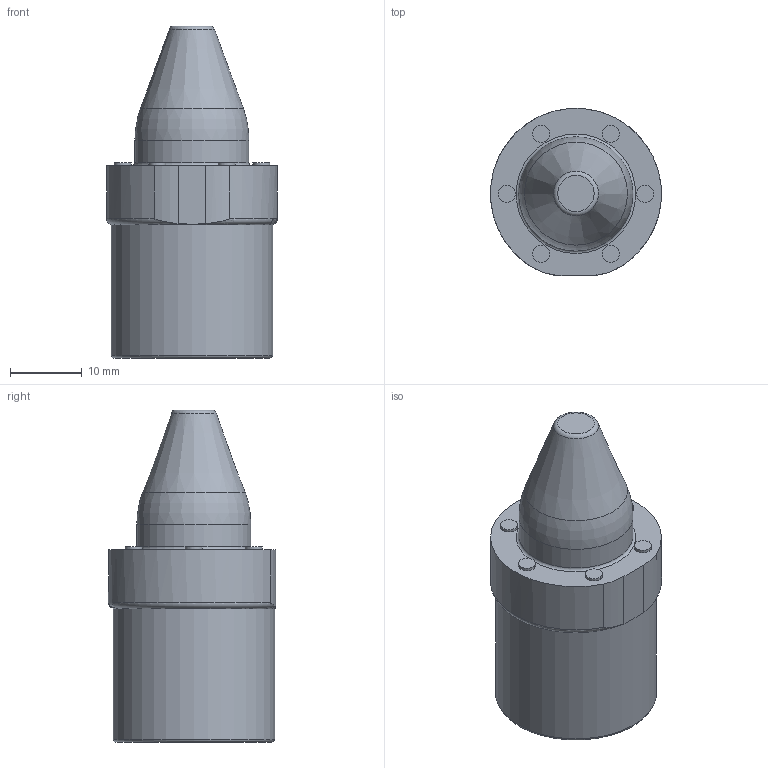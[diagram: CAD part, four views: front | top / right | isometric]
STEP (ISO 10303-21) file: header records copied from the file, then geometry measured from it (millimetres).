
FILE_DESCRIPTION (( 'STEP AP214' ), '1' );
FILE_NAME ('PA-.625-.125-S-P-BT.STEP', '2023-12-06T12:02:30', ( '' ), ( '' ), 'SwSTEP 2.0', 'SolidWorks 2020', '' );
FILE_SCHEMA (( 'AUTOMOTIVE_DESIGN' ));
Length unit declared in the file: inch
Products named in the file (1): PA-.625-.125-S-P-BT
Bounding box: 23.8 x 23.28 x 46.23 mm (x, y, z)
Volume: 12608.1 mm3; surface area: 3848.6 mm2
Topology: 1 solids, 1 shells, 31 faces, 59 edges, 37 vertices
Faces by surface type: cylinder 13, plane 10, torus 5, cone 3
Full cylindrical faces by diameter (mm): 2.388 x6, 6.528 x1, 7.937 x1, 15.875 x1, 22.479 x1
Entity records: 867 total; most frequent: CARTESIAN_POINT 145, DIRECTION 127, ORIENTED_EDGE 74, AXIS2_PLACEMENT_3D 61, EDGE_LOOP 56, FACE_OUTER_BOUND 46, EDGE_CURVE 37, VERTEX_POINT 33
